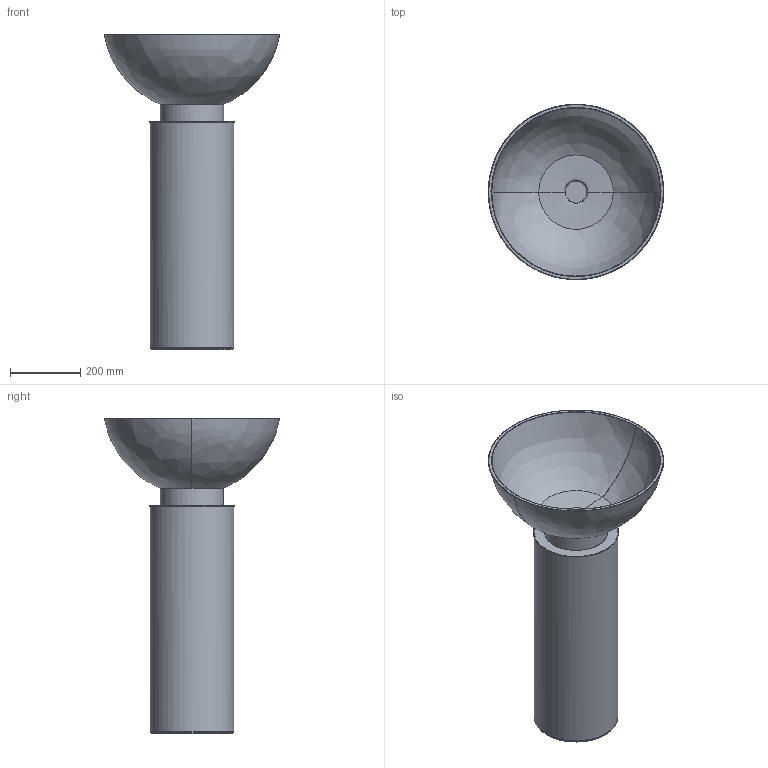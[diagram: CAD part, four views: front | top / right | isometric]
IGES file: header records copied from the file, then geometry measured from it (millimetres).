
Global section: file name: \\Archi-NAS\Comune\X GIOVANNI\SCHEDE PRODOTTO\LAVABI\FREESTANDING\TOWER LAMP\3D\TOWER LAMP.igs; native system: Rhinoceros ( Jan 17 2018 ); preprocessor: Trout Lake IGES 012 Jan 17 2018; date: 230628.152042; units: millimetre
Bounding box: 499.62 x 499.47 x 900 mm (x, y, z)
Surface area: 1463888.5 mm2 (no closed solid volume)
Topology: 0 solids, 0 shells, 35 faces, 655 edges, 778 vertices
Faces by surface type: bspline 35
